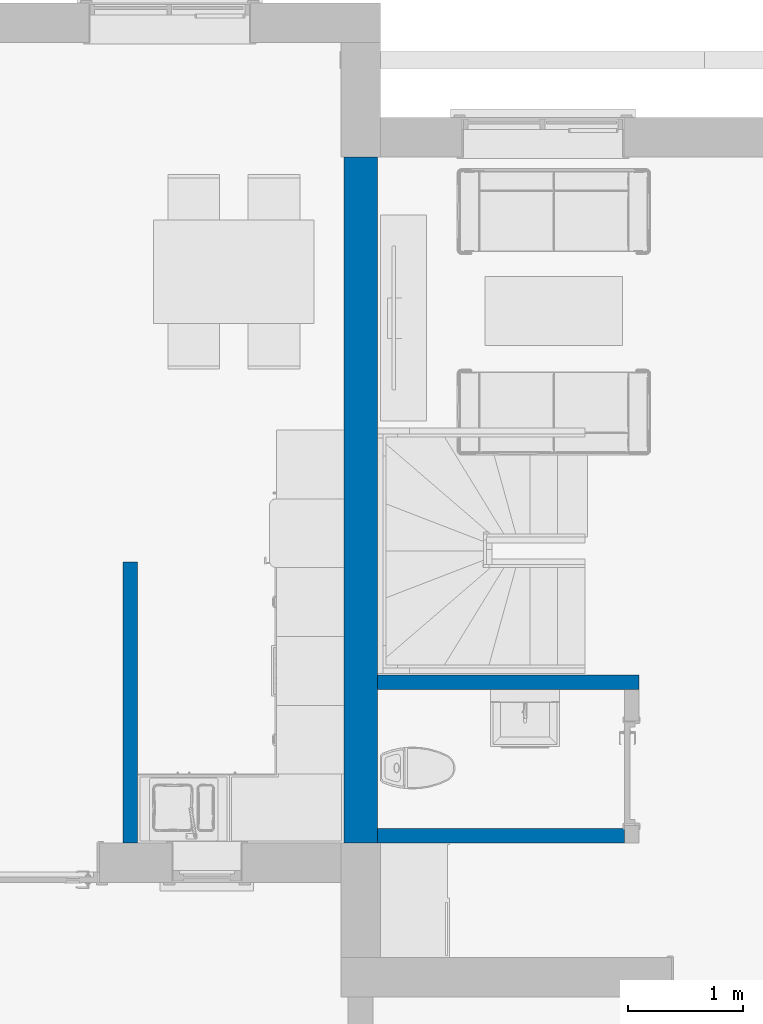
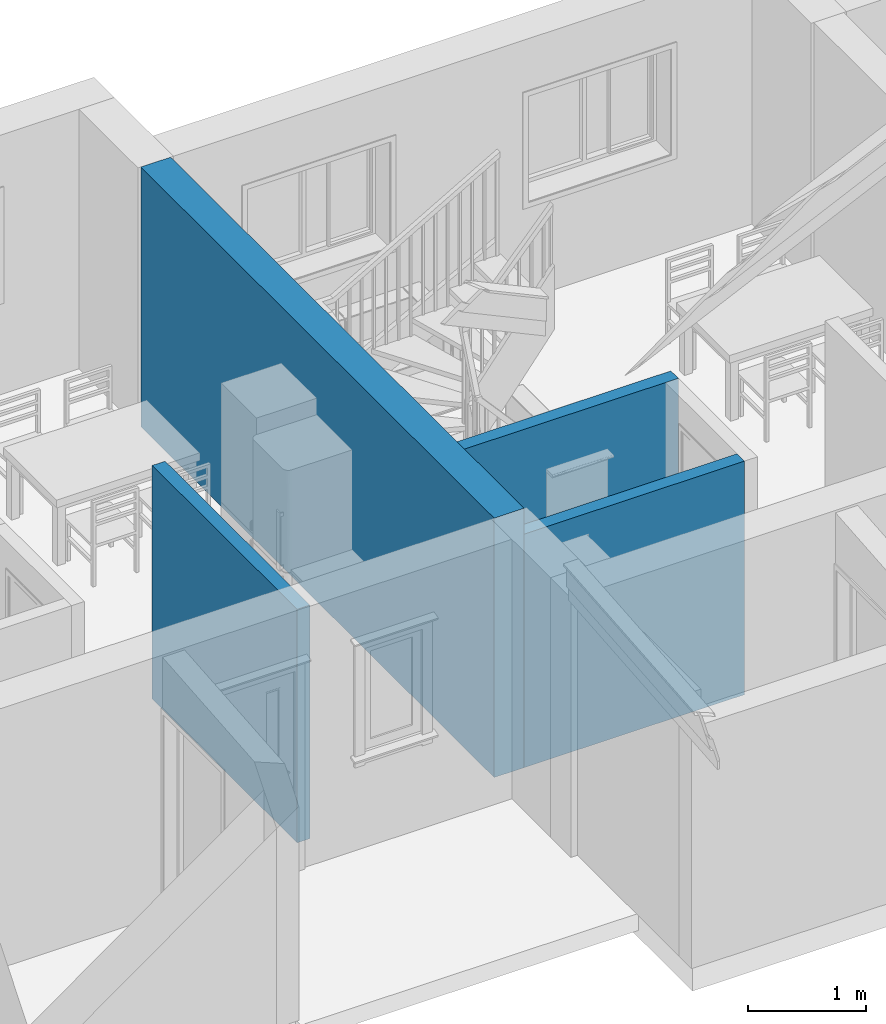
# One storey, part 16 of 65: 4 walls.
"""IFC2X3 building model written with IfcOpenShell, lengths in millimetres."""

from ifc_helpers import new_model, entity, si_unit, converted_unit, direction, frame, frame_2d, origin, place, context, subcontext, project, spatial, rectangle, extrude, material, layer, layer_set, layer_usage, type_object, element, save


model = new_model("IFC2X3")

# Units and contexts
model_context = context("Model", 3, precision=0.01, world=origin(), true_north=direction((0.0, 1.0)))
body_context = subcontext(model_context, "Body", "Model", "MODEL_VIEW")
ifc_project = project(units=[si_unit("LENGTHUNIT", "METRE", prefix="MILLI"), si_unit("AREAUNIT", "SQUARE_METRE"), si_unit("VOLUMEUNIT", "CUBIC_METRE"), converted_unit("PLANEANGLEUNIT", "DEGREE", entity("IfcPlaneAngleMeasure", 0.017453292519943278), si_unit("PLANEANGLEUNIT", "RADIAN"), dimensions=[0, 0, 0, 0, 0, 0, 0])], contexts=[model_context])

# Site, building, storey
site_placement = place(None, origin())
site = spatial("IfcSite", under=ifc_project, at=site_placement, Name="Default", CompositionType="ELEMENT")
building_placement = place(site_placement, origin())
building = spatial("IfcBuilding", under=site, at=building_placement, CompositionType="ELEMENT")
storey_placement = place(building_placement, origin())
storey = spatial("IfcBuildingStorey", under=building, at=storey_placement, Name="Et. 1", CompositionType="ELEMENT", Elevation=0.0)

# Walls
ifc_material_1 = material(Name="Vegg - Gips - Innvendig - Hvit")
ifc_layer_1 = layer(ifc_material_1, 13.000000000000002)
ifc_layer_2 = layer(ifc_material_1, 13.000000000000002)
ifc_material_2 = material(Name="Vegg - Stender - Isolert")
ifc_layer_3 = layer(ifc_material_2, 100.0)
ifc_material_3 = material(Name="Vegg - Luftsjikt")
ifc_layer_4 = layer(ifc_material_3, 40.0)
ifc_layer_5 = layer(ifc_material_2, 100.0)
ifc_layer_6 = layer(ifc_material_1, 13.000000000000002)
ifc_layer_7 = layer(ifc_material_1, 13.000000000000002)
ifc_layer_set_1 = layer_set([ifc_layer_1, ifc_layer_2, ifc_layer_3, ifc_layer_4, ifc_layer_5, ifc_layer_6, ifc_layer_7], Name="Basic Wall:24-GSISIG-26_100_40_100_26")
ifc_layer_usage_1 = layer_usage(ifc_layer_set_1, "AXIS2", "NEGATIVE", 146.00000000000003)
wall_type_1 = type_object("IfcWallType", Name="Basic Wall:24-GSISIG-26_100_40_100_26", PredefinedType="STANDARD", material=ifc_layer_set_1)
wall_1_placement = place(storey_placement, frame((22178.00958675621, 10754.180957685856, 0.0), z_axis=(0.0, 0.0, 1.0), x_axis=(0.0, 1.0, 0.0)))
element("IfcWallStandardCase", 1, at=wall_1_placement, inside=storey, type_object=wall_type_1, material=ifc_layer_usage_1, Name="Basic Wall:24-GSISIG-26_100_40_100_26", context=body_context, shape_type="SweptSolid", body=[
    extrude(rectangle(XDim=5982.000000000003, YDim=292.00000000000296, at=frame_2d((2991.0000000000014, 3.836930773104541e-13), x_axis=(-1.0, 0.0))), origin(), (0.0, 0.0, 1.0), 2681.0),
])
ifc_layer_8 = layer(ifc_material_1, 13.000000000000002)
ifc_material_4 = material(Name="Vegg - Stender - Stål - Isolert")
ifc_layer_9 = layer(ifc_material_4, 100.0)
ifc_layer_10 = layer(ifc_material_1, 13.000000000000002)
ifc_layer_set_2 = layer_set([ifc_layer_8, ifc_layer_9, ifc_layer_10], Name="Basic Wall:24-GSIG-13_100_13")
ifc_layer_usage_2 = layer_usage(ifc_layer_set_2, "AXIS2", "NEGATIVE", 63.00000000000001)
wall_type_2 = type_object("IfcWallType", Name="Basic Wall:24-GSIG-13_100_13", PredefinedType="STANDARD", material=ifc_layer_set_2)
wall_2_placement = place(storey_placement, frame((20169.009586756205, 10754.180957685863, 0.0), z_axis=(0.0, 0.0, 1.0), x_axis=(0.0, 1.0, 0.0)))
element("IfcWallStandardCase", 2, at=wall_2_placement, inside=storey, type_object=wall_type_2, material=ifc_layer_usage_2, Name="Basic Wall:24-GSIG-13_100_13", context=body_context, shape_type="SweptSolid", body=[
    extrude(rectangle(XDim=2451.8777614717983, YDim=125.99999999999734, at=frame_2d((1225.9388807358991, 4.618527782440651e-14), x_axis=(-1.0, 0.0))), origin(), (0.0, 0.0, 1.0), 2413.0),
])
ifc_layer_usage_3 = layer_usage(ifc_layer_set_2, "AXIS2", "NEGATIVE", 63.00000000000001)
wall_3_placement = place(storey_placement, frame((22324.009586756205, 12156.058719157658, 0.0)))
element("IfcWallStandardCase", 3, at=wall_3_placement, inside=storey, type_object=wall_type_2, material=ifc_layer_usage_3, Name="Basic Wall:24-GSIG-13_100_13", context=body_context, shape_type="SweptSolid", body=[
    extrude(rectangle(XDim=2281.000000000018, YDim=126.00000000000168, at=frame_2d((1140.500000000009, -4.263256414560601e-14), x_axis=(-1.0, 0.0))), origin(), (0.0, 0.0, 1.0), 2413.0),
])
ifc_layer_usage_4 = layer_usage(ifc_layer_set_2, "AXIS2", "NEGATIVE", 63.00000000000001)
wall_4_placement = place(storey_placement, frame((24479.009586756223, 10817.180957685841, 0.0), z_axis=(0.0, 0.0, 1.0), x_axis=(-1.0, 0.0, 0.0)))
element("IfcWallStandardCase", 4, at=wall_4_placement, inside=storey, type_object=wall_type_2, material=ifc_layer_usage_4, Name="Basic Wall:24-GSIG-13_100_13", context=body_context, shape_type="SweptSolid", body=[
    extrude(rectangle(XDim=2155.0000000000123, YDim=126.00000000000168, at=frame_2d((1077.5000000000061, -7.105427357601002e-14), x_axis=(-1.0, 0.0))), origin(), (0.0, 0.0, 1.0), 2413.0),
])

save(model, "model.ifc")
